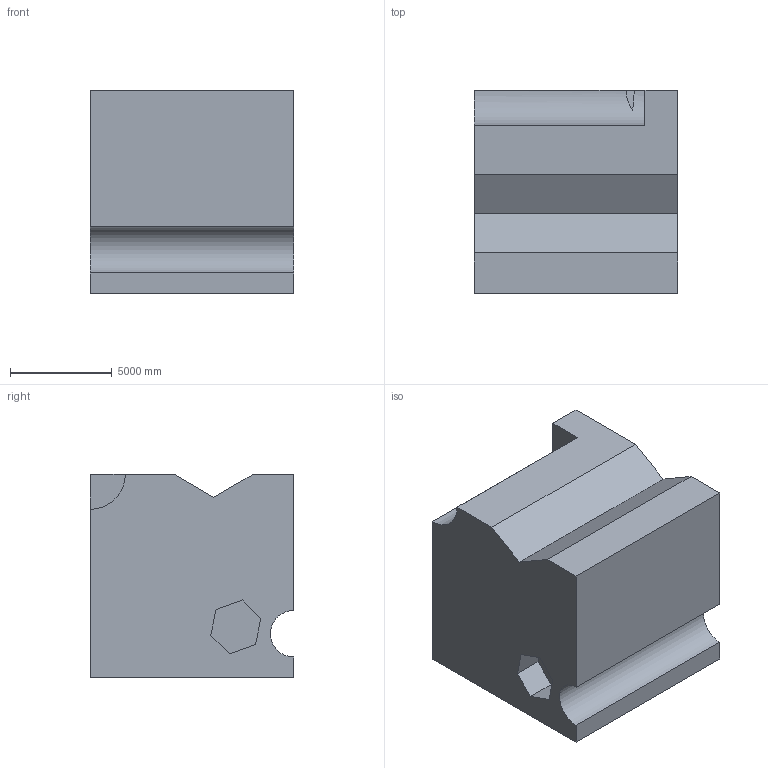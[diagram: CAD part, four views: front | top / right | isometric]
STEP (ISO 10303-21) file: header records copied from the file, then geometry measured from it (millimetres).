
FILE_DESCRIPTION (( 'STEP AP203' ), '1' );
FILE_NAME ('1585.STEP', '2022-08-18T15:58:12', ( 'user' ), ( '' ), 'SwSTEP 2.0', 'SolidWorks 2021', '' );
FILE_SCHEMA (( 'CONFIG_CONTROL_DESIGN' ));
Length unit declared in the file: centimetre
Products named in the file (1): 1585
Bounding box: 10000 x 10000 x 10000 mm (x, y, z)
Volume: 899187347758.1 mm3; surface area: 692345764.2 mm2
Topology: 1 solids, 1 shells, 28 faces, 78 edges, 52 vertices
Faces by surface type: plane 26, cylinder 2
Entity records: 967 total; most frequent: CARTESIAN_POINT 165, ORIENTED_EDGE 156, DIRECTION 138, EDGE_CURVE 78, VECTOR 72, LINE 72, VERTEX_POINT 52, AXIS2_PLACEMENT_3D 33
